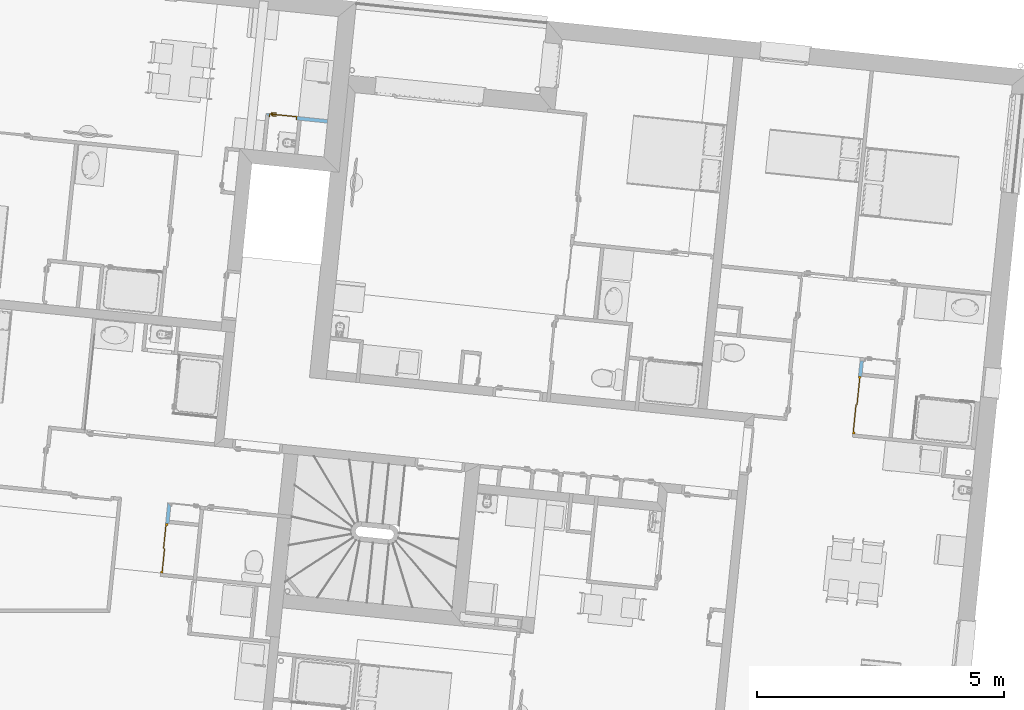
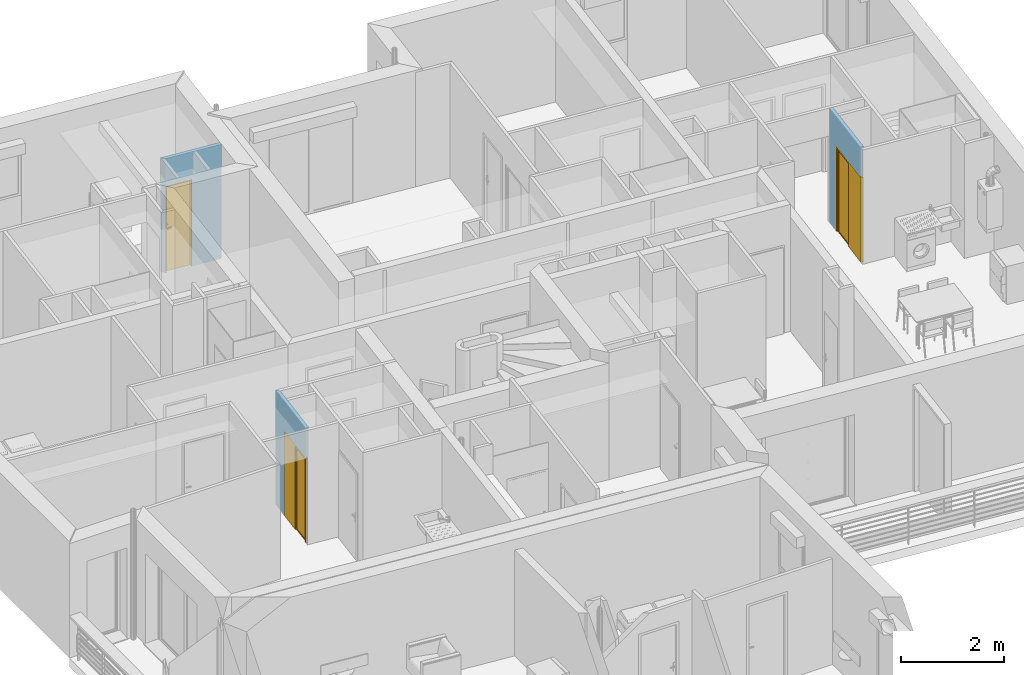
# One storey, part 91 of 164: 3 doors, 3 openings, plus 3 elements that do not belong to this part.
"""IFC2X3 building model written with IfcOpenShell, lengths in millimetres."""

from ifc_helpers import new_model, entity, si_unit, converted_unit, derived_unit, money_unit, direction, frame, origin_with_axes, origin_2d_with_axis, place, context, subcontext, project, spatial, polyline, rectangle, outline, extrude, open_shell, faceted_brep, surface_model, material, layer, layer_set, layer_usage, type_object, element, fill, save


model = new_model("IFC2X3")

# Units and contexts
model_context = context("Model", 3, precision=0.01, world=origin_with_axes(), true_north=direction((0.0, 1.0)))
body_context = subcontext(model_context, "Body", "Model", "MODEL_VIEW")
ifc_project = project(units=[si_unit("LENGTHUNIT", "METRE", prefix="MILLI"), si_unit("AREAUNIT", "SQUARE_METRE"), si_unit("VOLUMEUNIT", "CUBIC_METRE"), converted_unit("PLANEANGLEUNIT", "DEGREE", entity("IfcPlaneAngleMeasure", 0.0174532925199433), si_unit("PLANEANGLEUNIT", "RADIAN"), dimensions=[0, 0, 0, 0, 0, 0, 0]), money_unit("USD"), converted_unit("TIMEUNIT", "Year", entity("IfcTimeMeasure", 31557600.0), si_unit("TIMEUNIT", "SECOND"), dimensions=[0, 0, 1, 0, 0, 0, 0]), si_unit("MASSUNIT", "GRAM", prefix="KILO"), si_unit("THERMODYNAMICTEMPERATUREUNIT", "DEGREE_CELSIUS"), si_unit("LUMINOUSINTENSITYUNIT", "LUMEN"), si_unit("ENERGYUNIT", "JOULE", prefix="MEGA"), derived_unit("THERMALCONDUCTANCEUNIT", [(si_unit("POWERUNIT", "WATT"), 1), (si_unit("LENGTHUNIT", "METRE"), -1), (si_unit("THERMODYNAMICTEMPERATUREUNIT", "KELVIN"), -1)]), derived_unit("SPECIFICHEATCAPACITYUNIT", [(si_unit("ENERGYUNIT", "JOULE"), 1), (si_unit("MASSUNIT", "GRAM", prefix="KILO"), -1), (si_unit("THERMODYNAMICTEMPERATUREUNIT", "KELVIN"), -1)]), derived_unit("MASSDENSITYUNIT", [(si_unit("MASSUNIT", "GRAM", prefix="KILO"), 1), (si_unit("VOLUMEUNIT", "CUBIC_METRE"), -1)])], contexts=[model_context])

# Site, building, storey
site_placement = place(None, origin_with_axes())
site = spatial("IfcSite", under=ifc_project, at=site_placement, Name="Site", CompositionType="ELEMENT")
building_placement = place(site_placement, origin_with_axes())
building = spatial("IfcBuilding", under=site, at=building_placement, Name="Bâtiment", CompositionType="ELEMENT")
storey_placement = place(building_placement, frame((0.0, 0.0, 5750.0), z_axis=(0.0, 0.0, 1.0), x_axis=(1.0, 0.0, 0.0)))
storey = spatial("IfcBuildingStorey", under=building, at=storey_placement, Name="Etage1", CompositionType="ELEMENT", Elevation=5750.0)

# Wall, opening, door
ifc_material = material(Name="Hachure solide 268963992")
ifc_layer = layer(ifc_material, 70.0, ventilated="UNKNOWN")
ifc_layer_set = layer_set([ifc_layer], Name="Cloison 70 0826278243")
ifc_layer_usage_1 = layer_usage(ifc_layer_set, "AXIS2", "NEGATIVE", 70.0)
wall_type = type_object("IfcWallType", Name="Cloison 70 0826278243 70", PredefinedType="NOTDEFINED")
wall_1_placement = place(storey_placement, frame((2226265.983473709, -607274.0822664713, 0.0), z_axis=(0.0, 0.0, 1.0), x_axis=(-0.9948759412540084, 0.1011032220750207, 0.0)))
wall_1 = element("IfcWallStandardCase", 1, at=wall_1_placement, inside=storey, type_object=wall_type, material=ifc_layer_usage_1, Name="Mur-149", context=body_context, shape_type="SweptSolid", body=[
    extrude(outline(polyline([(339.9999999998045, 0.0), (1600.337752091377, 0.0), (1530.337752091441, 69.99999999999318), (340.0000069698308, 70.00000000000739), (339.9999999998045, 0.0)])), origin_with_axes(), (0.0, 0.0, 1.0), 2700.0),
])
opening_1_placement = place(wall_1_placement, frame((1245.337752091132, 0.0, 0.0), z_axis=(0.0, 0.0, 1.0), x_axis=(1.0, 0.0, 0.0)))
opening_1 = element("IfcOpeningElement", 2, at=opening_1_placement, cuts=wall_1, Name="Por-274", context=body_context, shape_type="SweptSolid", body=[
    extrude(rectangle(XDim=570.0, YDim=2050.0, at=origin_2d_with_axis()), frame((1.13686837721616e-10, 69.99999999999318, 1025.0), z_axis=(0.0, -1.0, 0.0), x_axis=(-1.0, 0.0, 0.0)), (0.0, 0.0, 1.0), 140.0),
])
door_style_1 = type_object("IfcDoorStyle", Name="Porte_1v", ConstructionType="NOTDEFINED", OperationType="NOTDEFINED", ParameterTakesPrecedence=False, Sizeable=False)
door_1_placement = place(opening_1_placement, frame((275.0000000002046, 0.0, 0.0), z_axis=(0.0, 0.0, 1.0), x_axis=(-1.0, 0.0, 0.0)))
door_1 = element("IfcDoor", 3, at=door_1_placement, inside=storey, type_object=door_style_1, Name="Por-274", OverallHeight=2040.0, OverallWidth=550.0, context=body_context, shape_type="Brep", body=[
    faceted_brep([(559.9999999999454, 0.0, 0.0), (549.9999999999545, 0.0, 0.0), (549.9999999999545, 0.0, 2040.0), (0.0, 0.0, 2040.0), (0.0, 0.0, 0.0), (-10.00000000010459, 0.0, 0.0), (-10.00000000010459, 0.0, 2050.0), (559.9999999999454, 0.0, 2050.0), (559.9999999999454, -70.00000000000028, 0.0), (539.9999999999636, -70.00000000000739, 0.0), (539.9999999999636, -15.00000000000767, 0.0), (549.9999999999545, -15.00000000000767, 0.0), (549.9999999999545, -15.00000000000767, 2040.0), (-1.13686837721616e-10, -15.00000000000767, 2040.0), (-1.13686837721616e-10, -15.00000000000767, 0.0), (9.999999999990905, -15.00000000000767, 0.0), (9.999999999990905, -70.00000000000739, 0.0), (-10.00000000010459, -70.00000000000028, 0.0), (-10.00000000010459, -70.00000000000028, 2050.0), (559.9999999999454, -70.00000000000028, 2050.0), (9.999999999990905, -70.00000000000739, 2029.999999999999), (539.9999999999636, -70.00000000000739, 2029.999999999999), (539.9999999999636, -15.00000000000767, 2029.999999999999), (9.999999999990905, -15.00000000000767, 2029.999999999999)], [[[0, 1, 2, 3, 4, 5, 6, 7]], [[0, 8, 9, 10, 11, 1]], [[1, 11, 12, 2]], [[2, 12, 13, 3]], [[3, 13, 14, 4]], [[5, 4, 14, 15, 16, 17]], [[18, 6, 5, 17]], [[19, 7, 6, 18]], [[8, 0, 7, 19]], [[9, 8, 19, 18, 17, 16, 20, 21]], [[10, 9, 21, 22]], [[11, 10, 22, 23, 15, 14, 13, 12]], [[23, 20, 16, 15]], [[22, 21, 20, 23]]]),
    faceted_brep([(64.99999999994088, -15.00000000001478, 900.0000000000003), (24.99999999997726, -15.00000000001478, 900.0000000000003), (24.99999999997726, -15.00000000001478, 1100.0), (64.99999999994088, -15.00000000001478, 1100.0), (64.99999999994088, -24.99999999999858, 900.0000000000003), (24.99999999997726, -24.99999999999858, 900.0000000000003), (24.99999999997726, -24.99999999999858, 1100.0), (64.99999999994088, -24.99999999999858, 1100.0)], [[[0, 1, 2, 3]], [[1, 0, 4, 5]], [[2, 1, 5, 6]], [[3, 2, 6, 7]], [[0, 3, 7, 4]], [[5, 4, 7, 6]]]),
    faceted_brep([(134.9999999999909, -25.00000000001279, 1000.0), (34.99999999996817, -25.00000000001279, 1000.0), (34.99999999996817, -25.00000000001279, 1020.0), (134.9999999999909, -25.00000000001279, 1020.0), (134.9999999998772, -45.00000000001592, 1000.0), (34.99999999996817, -45.00000000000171, 1000.0), (34.99999999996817, -45.00000000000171, 1020.0), (134.9999999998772, -45.00000000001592, 1020.0)], [[[0, 1, 2, 3]], [[1, 0, 4, 5]], [[2, 1, 5, 6]], [[3, 2, 6, 7]], [[0, 3, 7, 4]], [[5, 4, 7, 6]]]),
    faceted_brep([(65.00000000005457, 15.00000000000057, 900.0000000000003), (24.99999999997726, 15.00000000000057, 900.0000000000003), (24.99999999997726, 15.00000000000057, 1100.0), (65.00000000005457, 15.00000000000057, 1100.0), (64.99999999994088, 4.999999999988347, 900.0000000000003), (24.99999999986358, 4.999999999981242, 900.0000000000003), (24.99999999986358, 4.999999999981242, 1100.0), (64.99999999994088, 4.999999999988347, 1100.0)], [[[0, 1, 2, 3]], [[1, 0, 4, 5]], [[2, 1, 5, 6]], [[3, 2, 6, 7]], [[0, 3, 7, 4]], [[5, 4, 7, 6]]]),
    faceted_brep([(134.9999999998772, 34.99999999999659, 1000.0), (34.99999999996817, 34.99999999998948, 1000.0), (34.99999999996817, 34.99999999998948, 1020.0), (134.9999999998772, 34.99999999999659, 1020.0), (134.9999999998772, 14.99999999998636, 1000.0), (34.99999999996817, 14.99999999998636, 1000.0), (34.99999999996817, 14.99999999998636, 1020.0), (134.9999999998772, 14.99999999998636, 1020.0)], [[[0, 1, 2, 3]], [[1, 0, 4, 5]], [[2, 1, 5, 6]], [[3, 2, 6, 7]], [[0, 3, 7, 4]], [[5, 4, 7, 6]]]),
    faceted_brep([(0.0, 4.999999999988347, 0.0), (550.0000000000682, 4.999999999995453, 0.0), (549.9999999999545, -15.00000000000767, 0.0), (-1.13686837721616e-10, -15.00000000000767, 0.0), (0.0, 4.999999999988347, 2040.0), (550.0000000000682, 4.999999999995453, 2040.0), (549.9999999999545, -15.00000000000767, 2040.0), (-1.13686837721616e-10, -15.00000000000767, 2040.0)], [[[0, 1, 2, 3]], [[0, 4, 5, 1]], [[1, 5, 6, 2]], [[3, 2, 6, 7]], [[4, 0, 3, 7]], [[5, 4, 7, 6]]]),
])
fill(opening_1, door_1)

ifc_layer_usage_2 = layer_usage(ifc_layer_set, "AXIS2", "NEGATIVE", 0.0)
wall_2_placement = place(storey_placement, frame((2236575.971936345, -613569.6565179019, 0.0), z_axis=(0.0, 0.0, 1.0), x_axis=(0.1008361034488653, 0.9949030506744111, 0.0)))
wall_2 = element("IfcWallStandardCase", 4, at=wall_2_placement, inside=storey, type_object=wall_type, material=ifc_layer_usage_2, Name="Mur-153", context=body_context, shape_type="SweptSolid", body=[
    extrude(outline(polyline([(0.0, -70.00000000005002), (1445.5076279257, -69.99999999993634), (1445.5076279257, 1.13686837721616e-10), (0.0, 0.0), (0.0, -70.00000000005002)])), origin_with_axes(), (0.0, 0.0, 1.0), 2700.0),
])
opening_2_placement = place(wall_2_placement, frame((547.2712556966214, 0.0, 0.0), z_axis=(0.0, 0.0, 1.0), x_axis=(1.0, 0.0, 0.0)))
opening_2 = element("IfcOpeningElement", 5, at=opening_2_placement, cuts=wall_2, Name="Por-254", context=body_context, shape_type="SweptSolid", body=[
    extrude(rectangle(XDim=1174.542511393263, YDim=2000.0, at=origin_2d_with_axis()), frame((0.0, -1.13686837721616e-10, 1000.0), z_axis=(0.0, -1.0, 0.0), x_axis=(1.0, 0.0, 0.0)), (0.0, 0.0, -1.0), 70.0),
    extrude(rectangle(XDim=1174.542511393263, YDim=2000.0, at=origin_2d_with_axis()), frame((0.0, 0.0, 1000.0), z_axis=(0.0, 1.0, 0.0), x_axis=(1.0, 0.0, 0.0)), (0.0, 0.0, -1.0), 70.0),
])
door_style_2 = type_object("IfcDoorStyle", ConstructionType="NOTDEFINED", OperationType="NOTDEFINED", ParameterTakesPrecedence=False, Sizeable=False)
door_2_placement = place(opening_2_placement, frame((-587.2712556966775, 3.410605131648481e-10, 0.0), z_axis=(0.0, 0.0, 1.0), x_axis=(1.0, 0.0, 0.0)))
door_2 = element("IfcDoor", 6, at=door_2_placement, inside=storey, type_object=door_style_2, Name="Por-254", OverallHeight=2000.0, OverallWidth=1174.54, context=body_context, shape_type="SurfaceModel", body=[
    faceted_brep([(0.0, 0.0, 0.0), (0.0, 0.0, 2000.0), (1174.542511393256, -1.13686837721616e-10, 2000.0), (1174.542511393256, -1.13686837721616e-10, 0.0), (1134.542511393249, 0.0, 0.0), (1134.542511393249, 0.0, 1960.0), (39.99999999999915, -1.13686837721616e-10, 1960.0), (39.99999999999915, -1.13686837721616e-10, 0.0), (0.0, -50.00000000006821, 0.0), (0.0, -50.00000000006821, 2000.0), (1174.542511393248, -50.00000000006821, 2000.0), (1174.542511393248, -50.00000000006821, 0.0), (1134.542511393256, -50.00000000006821, 0.0), (1134.542511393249, -9.999999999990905, 0.0), (1134.542511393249, -9.999999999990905, 1960.0), (39.99999999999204, -9.999999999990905, 1960.0), (39.99999999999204, -9.999999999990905, 0.0), (39.99999999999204, -50.00000000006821, 0.0), (39.99999999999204, -50.00000000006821, 1960.0), (1134.542511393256, -50.00000000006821, 1960.0)], [[[0, 1, 2, 3, 4, 5, 6, 7]], [[8, 9, 1, 0]], [[9, 10, 2, 1]], [[10, 11, 3, 2]], [[3, 11, 12, 13, 4]], [[5, 4, 13, 14]], [[6, 5, 14, 15]], [[7, 6, 15, 16]], [[0, 7, 16, 17, 8]], [[17, 18, 19, 12, 11, 10, 9, 8]], [[14, 13, 12, 19]], [[15, 14, 19, 18]], [[16, 15, 18, 17]]]),
    faceted_brep([(1134.542511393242, -19.99999999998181, 0.0), (1134.542511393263, -40.00000000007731, 0.0), (587.2712556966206, -39.99999999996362, 0.0), (587.2712556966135, -20.0000000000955, 0.0), (1134.542511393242, -19.99999999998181, 1960.0), (1134.542511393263, -40.00000000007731, 1960.0), (587.2712556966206, -39.99999999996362, 1960.0), (1114.542511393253, -40.00000000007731, 19.99999999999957), (607.2712556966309, -40.00000000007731, 19.99999999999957), (607.2712556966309, -40.00000000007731, 1940.0), (1114.542511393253, -40.00000000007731, 1940.0), (587.2712556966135, -20.0000000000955, 1960.0), (1114.542511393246, -20.0000000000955, 19.99999999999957), (1114.542511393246, -20.0000000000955, 1940.0), (607.2712556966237, -19.99999999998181, 1940.0), (607.2712556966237, -19.99999999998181, 19.99999999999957)], [[[0, 1, 2, 3]], [[4, 5, 1, 0]], [[1, 5, 6, 2], [7, 8, 9, 10]], [[3, 2, 6, 11]], [[0, 3, 11, 4], [12, 13, 14, 15]], [[11, 6, 5, 4]], [[15, 8, 7, 12]], [[14, 9, 8, 15]], [[13, 10, 9, 14]], [[12, 7, 10, 13]]]),
    surface_model("IfcShellBasedSurfaceModel", [(1114.54251139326, -30.0000000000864, 19.99999999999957), (1114.54251139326, -30.0000000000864, 1940.0), (607.2712556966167, -30.0000000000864, 1940.0), (607.2712556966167, -30.0000000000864, 19.99999999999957)], [open_shell([[[0, 1, 2, 3]]])]),
    faceted_brep([(592.2712556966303, 0.0, 0.0), (592.2712556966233, -19.99999999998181, 0.0), (40.00000000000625, -20.0000000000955, 0.0), (39.99999999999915, -1.13686837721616e-10, 0.0), (592.2712556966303, 0.0, 1960.0), (592.2712556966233, -19.99999999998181, 1960.0), (40.00000000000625, -20.0000000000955, 1960.0), (39.99999999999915, -1.13686837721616e-10, 1960.0)], [[[0, 1, 2, 3]], [[4, 5, 1, 0]], [[1, 5, 6, 2]], [[3, 2, 6, 7]], [[0, 3, 7, 4]], [[7, 6, 5, 4]]]),
])
fill(opening_2, door_2)

ifc_layer_usage_3 = layer_usage(ifc_layer_set, "AXIS2", "POSITIVE", -70.0)
wall_3_placement = place(storey_placement, frame((2222752.519479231, -615015.4801485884, 0.0), z_axis=(0.0, 0.0, 1.0), x_axis=(-0.1011032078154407, -0.9948759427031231, 0.0)))
wall_3 = element("IfcWallStandardCase", 7, at=wall_3_placement, inside=storey, type_object=wall_type, material=ifc_layer_usage_3, Name="Mur-149", context=body_context, shape_type="SweptSolid", body=[
    extrude(outline(polyline([(-1.003314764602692e-06, -69.99999999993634), (1408.251999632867, -69.99999999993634), (1408.251999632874, 1.13686837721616e-10), (69.99999999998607, 1.13686837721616e-10), (-1.003314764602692e-06, -69.99999999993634)])), origin_with_axes(), (0.0, 0.0, 1.0), 2700.0),
])
opening_3_placement = place(wall_3_placement, frame((926.5441935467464, -1.13686837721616e-10, 0.0), z_axis=(0.0, 0.0, 1.0), x_axis=(1.0, 0.0, 0.0)))
opening_3 = element("IfcOpeningElement", 8, at=opening_3_placement, cuts=wall_3, Name="Por-321", context=body_context, shape_type="SweptSolid", body=[
    extrude(rectangle(XDim=1013.088379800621, YDim=2000.0, at=origin_2d_with_axis()), frame((0.0, -69.99999999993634, 1000.0), z_axis=(0.0, 1.0, 0.0), x_axis=(1.0, 0.0, 0.0)), (0.0, 0.0, -1.0), 70.0),
    extrude(rectangle(XDim=1013.088379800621, YDim=2000.0, at=origin_2d_with_axis()), frame((0.0, -69.99999999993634, 1000.0), z_axis=(0.0, -1.0, 0.0), x_axis=(1.0, 0.0, 0.0)), (0.0, 0.0, -1.0), 70.0),
])
door_3_placement = place(opening_3_placement, frame((506.544189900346, 3.410605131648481e-10, 0.0), z_axis=(0.0, 0.0, 1.0), x_axis=(-1.0, 0.0, 0.0)))
door_3 = element("IfcDoor", 9, at=door_3_placement, inside=storey, type_object=door_style_2, Name="Por-321", OverallHeight=2000.0, OverallWidth=1013.09, context=body_context, shape_type="SurfaceModel", body=[
    faceted_brep([(1013.088379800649, 70.00000000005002, 0.0), (973.0883798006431, 70.00000000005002, 0.0), (973.0883798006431, 70.00000000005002, 1960.0), (40.00000000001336, 70.00000000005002, 1960.0), (40.00000000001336, 70.00000000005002, 0.0), (0.0, 70.00000000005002, 0.0), (0.0, 70.00000000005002, 2000.0), (1013.088379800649, 70.00000000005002, 2000.0), (1013.088379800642, 19.99999999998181, 0.0), (973.0883798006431, 19.99999999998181, 0.0), (973.0883798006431, 59.99999999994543, 0.0), (973.0883798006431, 59.99999999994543, 1960.0), (40.00000000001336, 60.00000000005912, 1960.0), (40.00000000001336, 60.00000000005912, 0.0), (40.00000000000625, 20.0000000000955, 0.0), (0.0, 19.99999999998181, 0.0), (0.0, 19.99999999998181, 2000.0), (1013.088379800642, 19.99999999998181, 2000.0), (40.00000000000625, 20.0000000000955, 1960.0), (973.0883798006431, 19.99999999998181, 1960.0)], [[[0, 1, 2, 3, 4, 5, 6, 7]], [[0, 8, 9, 10, 1]], [[1, 10, 11, 2]], [[2, 11, 12, 3]], [[3, 12, 13, 4]], [[5, 4, 13, 14, 15]], [[16, 6, 5, 15]], [[17, 7, 6, 16]], [[8, 0, 7, 17]], [[9, 8, 17, 16, 15, 14, 18, 19]], [[10, 9, 19, 11]], [[11, 19, 18, 12]], [[12, 18, 14, 13]]]),
    faceted_brep([(40.00000000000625, 49.99999999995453, 0.0), (506.5441899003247, 50.00000000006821, 0.0), (506.5441899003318, 29.99999999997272, 0.0), (40.00000000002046, 29.99999999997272, 0.0), (40.00000000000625, 49.99999999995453, 1960.0), (506.5441899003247, 50.00000000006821, 1960.0), (60.00000000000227, 49.99999999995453, 19.99999999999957), (486.5441899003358, 50.00000000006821, 19.99999999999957), (486.5441899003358, 50.00000000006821, 1940.0), (60.00000000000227, 49.99999999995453, 1940.0), (506.5441899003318, 29.99999999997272, 1960.0), (40.00000000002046, 29.99999999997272, 1960.0), (60.00000000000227, 30.0000000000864, 19.99999999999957), (60.00000000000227, 30.0000000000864, 1940.0), (486.5441899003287, 29.99999999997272, 1940.0), (486.5441899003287, 29.99999999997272, 19.99999999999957)], [[[0, 1, 2, 3]], [[0, 4, 5, 1], [6, 7, 8, 9]], [[1, 5, 10, 2]], [[3, 2, 10, 11], [12, 13, 14, 15]], [[4, 0, 3, 11]], [[5, 4, 11, 10]], [[7, 6, 12, 15]], [[8, 7, 15, 14]], [[9, 8, 14, 13]], [[6, 9, 13, 12]]]),
    surface_model("IfcShellBasedSurfaceModel", [(60.00000000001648, 39.99999999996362, 19.99999999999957), (486.5441899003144, 40.00000000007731, 19.99999999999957), (486.5441899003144, 40.00000000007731, 1940.0), (60.00000000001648, 39.99999999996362, 1940.0)], [open_shell([[[0, 1, 2, 3]]])]),
    faceted_brep([(501.5441899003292, 69.99999999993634, 0.0), (973.0883798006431, 70.00000000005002, 0.0), (973.0883798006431, 50.00000000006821, 0.0), (501.5441899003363, 49.99999999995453, 0.0), (501.5441899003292, 69.99999999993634, 1960.0), (973.0883798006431, 70.00000000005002, 1960.0), (973.0883798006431, 50.00000000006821, 1960.0), (501.5441899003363, 49.99999999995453, 1960.0)], [[[0, 1, 2, 3]], [[0, 4, 5, 1]], [[1, 5, 6, 2]], [[3, 2, 6, 7]], [[4, 0, 3, 7]], [[5, 4, 7, 6]]]),
])
fill(opening_3, door_3)

save(model, "model.ifc")
